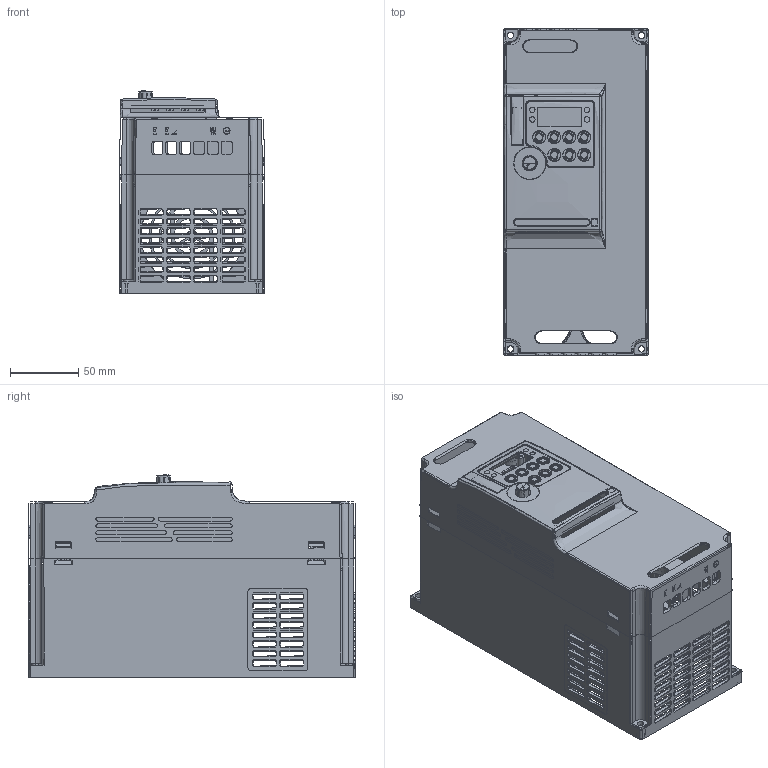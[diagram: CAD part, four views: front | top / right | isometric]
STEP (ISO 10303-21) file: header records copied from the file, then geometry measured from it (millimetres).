
FILE_DESCRIPTION((''),'2;1');
FILE_NAME('NZ200-7_5-11KW-3D','2022-07-30T',('CHEN'),(''),'PRO/ENGINEER BY PARAMETRIC TECHNOLOGY CORPORATION, 2010280','PRO/ENGINEER BY PARAMETRIC TECHNOLOGY CORPORATION, 2010280','');
FILE_SCHEMA(('CONFIG_CONTROL_DESIGN'));
Products named in the file (1): NZ200-7_5-11KW-3D
Bounding box: 106.01 x 240.03 x 148.5 mm (x, y, z)
Surface area: 301658.6 mm2 (no closed solid volume)
Topology: 0 solids, 488 shells, 1445 faces, 5908 edges, 4904 vertices
Faces by surface type: plane 995, cylinder 185, cone 105, bspline 93, torus 55, sphere 6, extrusion 6
Entity records: 70715 total; most frequent: CARTESIAN_POINT 26244, DIRECTION 7576, ORIENTED_EDGE 7510, EDGE_CURVE 5895, VERTEX_POINT 4911, VECTOR 3864, LINE 3858, AXIS2_PLACEMENT_3D 1856
